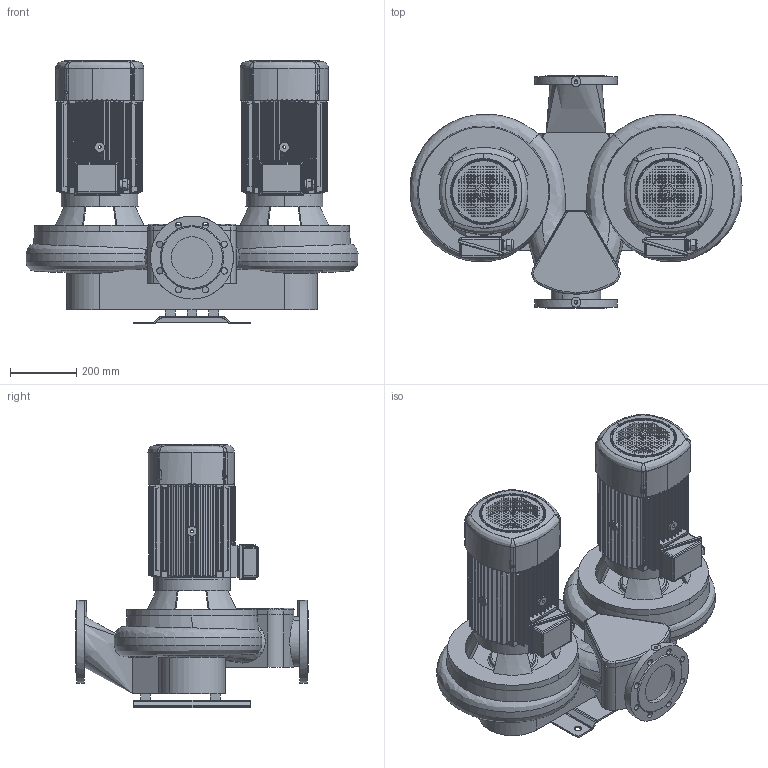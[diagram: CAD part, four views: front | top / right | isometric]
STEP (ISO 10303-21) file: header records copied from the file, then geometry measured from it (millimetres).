
FILE_DESCRIPTION(('STEP AP214'),'1');
FILE_NAME('export.stp','2018-05-28T12:43:47',(' '),(' '),'Spatial InterOp 3D',' ',' ');
FILE_SCHEMA(('AUTOMOTIVE_DESIGN { 1 0 10303 214 1 1 1 1 }'));
Length unit declared in the file: millimetre
Products named in the file (16): W_AT11294750KP134; V_TL110611291154; V_PPAT1129; P100496; P100495; P100342; KP-134_H2; R200882; G23890VA; R201240; G43699; KYTKOTELO_100_133; V_MKP-134-H2-F31; V_EKF31OKN132133
Assembly tree (23 placements, depth 4):
  W_AT11294750KP134
    V_TL110611291154  x2
    V_PPAT1129
    P100496
      P100495  x2
      P100342
    V_MKP-134-H2-F31
      KP-134_H2
        R200882
        G23890VA
        R201240
        G43699
        KYTKOTELO_100_133
      V_EKF31OKN132133
    V_MKP-134-H2-F31
      KP-134_H2
        R200882
        G23890VA
        R201240
        G43699
        KYTKOTELO_100_133
      V_EKF31OKN132133
Bounding box: 999.38 x 700 x 794.5 mm (x, y, z)
Volume: 86272600.1 mm3; surface area: 9289210.9 mm2
Topology: 16 solids, 20 shells, 4635 faces, 13429 edges, 8787 vertices
Faces by surface type: plane 2569, cylinder 1334, bspline 324, cone 252, torus 112, sphere 44
Full cylindrical faces by diameter (mm): 5 x8, 10 x8, 35.5 x2, 69 x2, 80 x2, 214 x2, 220 x2, 226 x2
Entity records: 131429 total; most frequent: CARTESIAN_POINT 44843, ORIENTED_EDGE 13908, DIRECTION 12050, EDGE_CURVE 6986, VERTEX_POINT 4608, LINE 4170, VECTOR 4170, AXIS2_PLACEMENT_3D 3940
